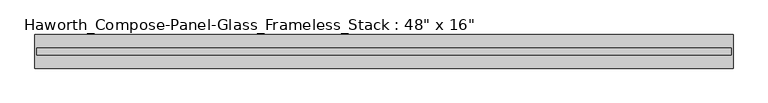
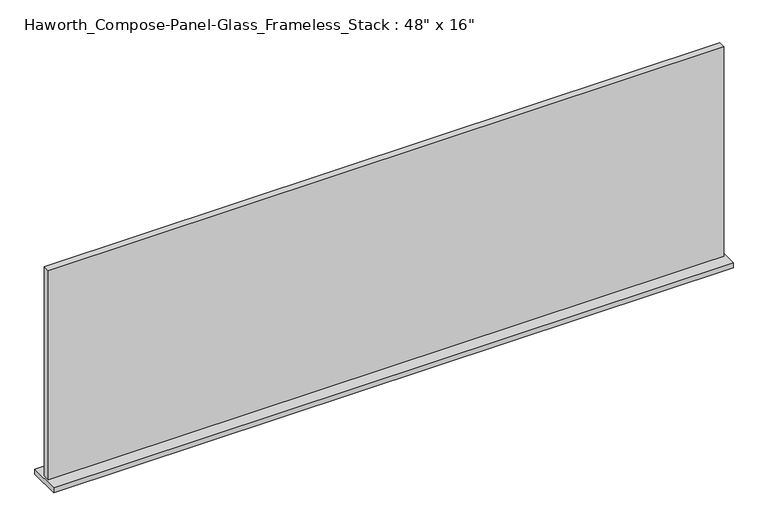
"""IFC4 building model written with IfcOpenShell, lengths in millimetres: furniture geometry."""

from ifc_helpers import new_model, si_unit, frame, origin, place, context, project, spatial, polyline, outline, extrude, source, transform, mapped, element, save


def furniture_7b26bb9c(model_context):
    return source(origin(), model_context, "Body", "SweptSolid", [
        extrude(outline(polyline([(608.8652902, -27.3093594), (-603.9847098, -27.3093594), (-603.9847098, -14.6093594), (608.8652902, -14.6093594), (608.8652902, -27.3093594)])), frame((0.0, 0.0, 746.125), z_axis=(0.0, 0.0, 1.0), x_axis=(1.0, 0.0, 0.0)), (0.0, 0.0, 1.0), 396.875),
        extrude(outline(polyline([(-607.1597098, -50.3281094), (-607.1597098, 8.4093906), (612.0402902, 8.4093906), (612.0402902, -50.3281094), (-607.1597098, -50.3281094)])), frame((0.0, 0.0, 736.6), z_axis=(0.0, 0.0, 1.0), x_axis=(1.0, 0.0, 0.0)), (0.0, 0.0, 1.0), 9.525),
    ])


if __name__ == "__main__":
    model = new_model("IFC4")
    model_context = context("Model", 3, world=origin())
    ifc_project = project(units=[si_unit("LENGTHUNIT", "METRE", prefix="MILLI")], contexts=[model_context])
    site = spatial("IfcSite", under=ifc_project)
    building = spatial("IfcBuilding", under=site)
    placement = place(None, origin())
    furniture_shape = furniture_7b26bb9c(model_context)
    element("IfcFurniture", 1, ObjectType="Haworth_Compose-Panel-Glass_Frameless_Stack : 48\" x 16\"", at=placement, inside=building, context=model_context, shape_type="MappedRepresentation", body=[
        mapped(furniture_shape, transform((0.0, 0.0, 0.0), x_axis=(1.0, 0.0, 0.0), y_axis=(0.0, 1.0, 0.0), z_axis=(0.0, 0.0, 1.0))),
    ])
    save(model, "model.ifc")
